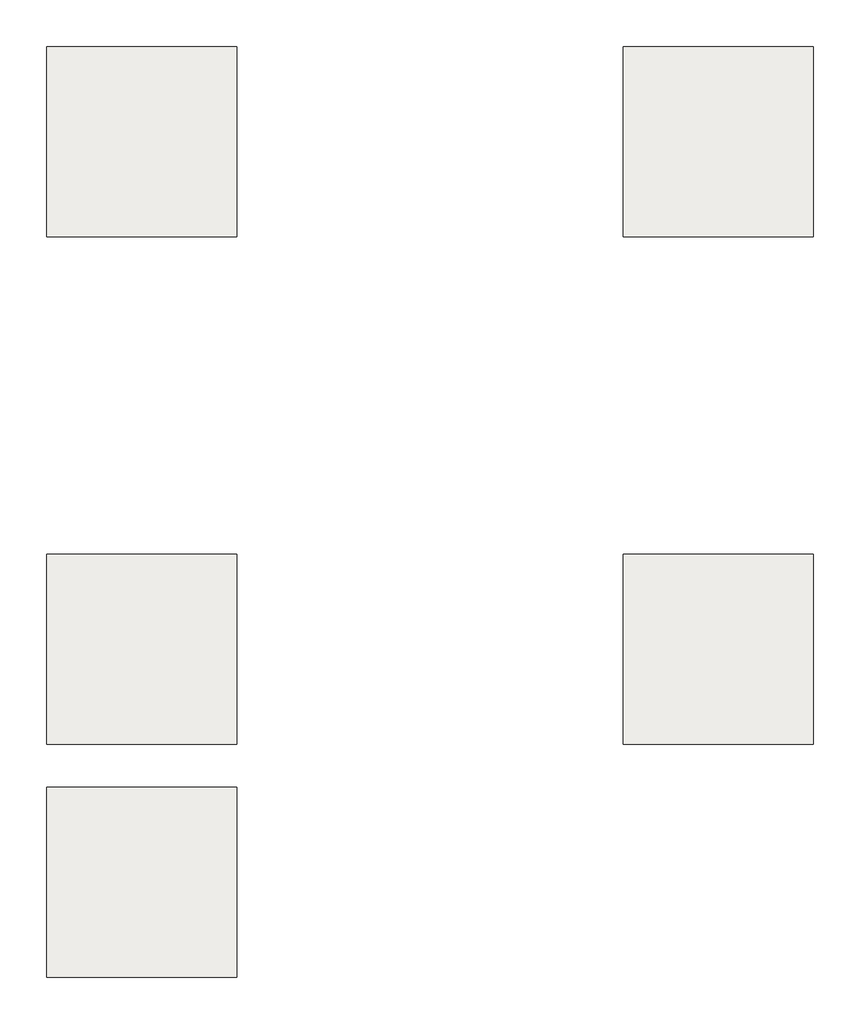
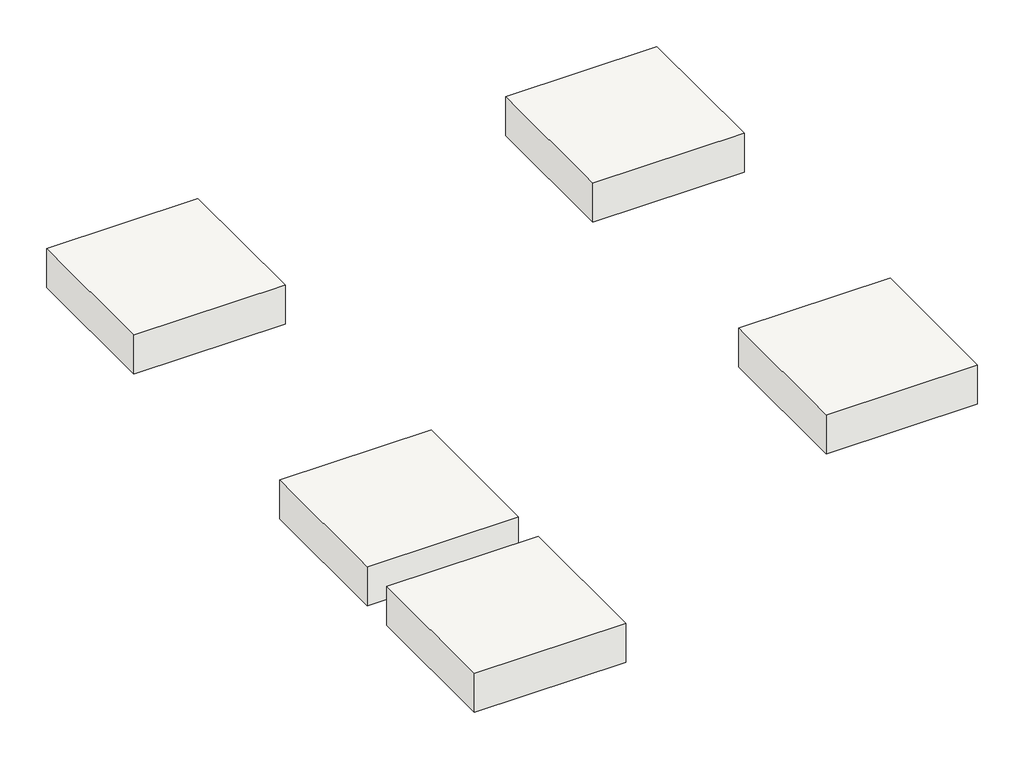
# One storey: 5 slabs.
"""IFC4 building model written with IfcOpenShell, lengths in millimetres."""

from ifc_helpers import new_model, si_unit, origin, place, context, project, spatial, transform, mapped, element, save
from components import slab_c4e9b2b2

model = new_model("IFC4")

# Units and contexts
model_context = context("Model", 3, world=origin())
ifc_project = project(units=[si_unit("LENGTHUNIT", "METRE", prefix="MILLI")], contexts=[model_context])

# Site, building, storey
site = spatial("IfcSite", under=ifc_project)
building = spatial("IfcBuilding", under=site)
storey = spatial("IfcBuildingStorey", under=building, Name="B - B.O. Footing", Elevation=-2470.15)

# Slabs
placement = place(None, origin())
slab_shape = slab_c4e9b2b2(model_context)
element("IfcSlab", 1, ObjectType="Footing-Rectangular : 3'8\" x 3'8\" x 1'", at=placement, inside=storey, context=model_context, shape_type="MappedRepresentation", body=[
    mapped(slab_shape, transform((-2750.6629486, -2782.5289462, -2470.15), x_axis=(1.0, 0.0, 0.0), y_axis=(0.0, 1.0, 0.0), z_axis=(0.0, 0.0, 1.0))),
])
element("IfcSlab", 2, ObjectType="Footing-Rectangular : 3'8\" x 3'8\" x 1'", at=placement, inside=storey, context=model_context, shape_type="MappedRepresentation", body=[
    mapped(slab_shape, transform((640.2370514, -2782.5289462, -2470.15), x_axis=(1.0, 0.0, 0.0), y_axis=(0.0, 1.0, 0.0), z_axis=(0.0, 0.0, 1.0))),
])
element("IfcSlab", 3, ObjectType="Footing-Rectangular : 3'8\" x 3'8\" x 1'", at=placement, inside=storey, context=model_context, shape_type="MappedRepresentation", body=[
    mapped(slab_shape, transform((-2750.6629486, -4154.1289462, -2470.15), x_axis=(1.0, 0.0, 0.0), y_axis=(0.0, 1.0, 0.0), z_axis=(0.0, 0.0, 1.0))),
])
element("IfcSlab", 4, ObjectType="Footing-Rectangular : 3'8\" x 3'8\" x 1'", at=placement, inside=storey, context=model_context, shape_type="MappedRepresentation", body=[
    mapped(slab_shape, transform((-2750.6629486, 201.9710538, -2470.15), x_axis=(1.0, 0.0, 0.0), y_axis=(0.0, 1.0, 0.0), z_axis=(0.0, 0.0, 1.0))),
])
element("IfcSlab", 5, ObjectType="Footing-Rectangular : 3'8\" x 3'8\" x 1'", at=placement, inside=storey, context=model_context, shape_type="MappedRepresentation", body=[
    mapped(slab_shape, transform((640.2370514, 201.9710538, -2470.15), x_axis=(1.0, 0.0, 0.0), y_axis=(0.0, 1.0, 0.0), z_axis=(0.0, 0.0, 1.0))),
])

save(model, "model.ifc")
